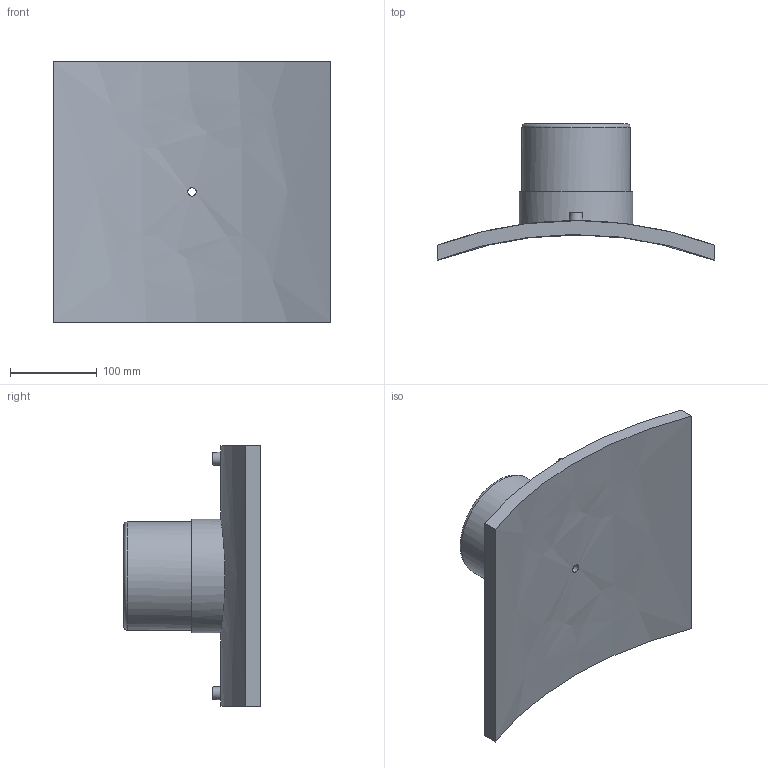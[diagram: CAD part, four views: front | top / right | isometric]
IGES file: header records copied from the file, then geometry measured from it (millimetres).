
Global section: file name: 495803900125T; native system: Autodesk Inventor 2019; preprocessor: unknown; author: KIM; date: 20240404.114957; units: millimetre
Bounding box: 320 x 157.41 x 300 mm (x, y, z)
Volume: 2120905.1 mm3; surface area: 303481.1 mm2
Topology: 1 solids, 1 shells, 29 faces, 60 edges, 43 vertices
Faces by surface type: bspline 29
